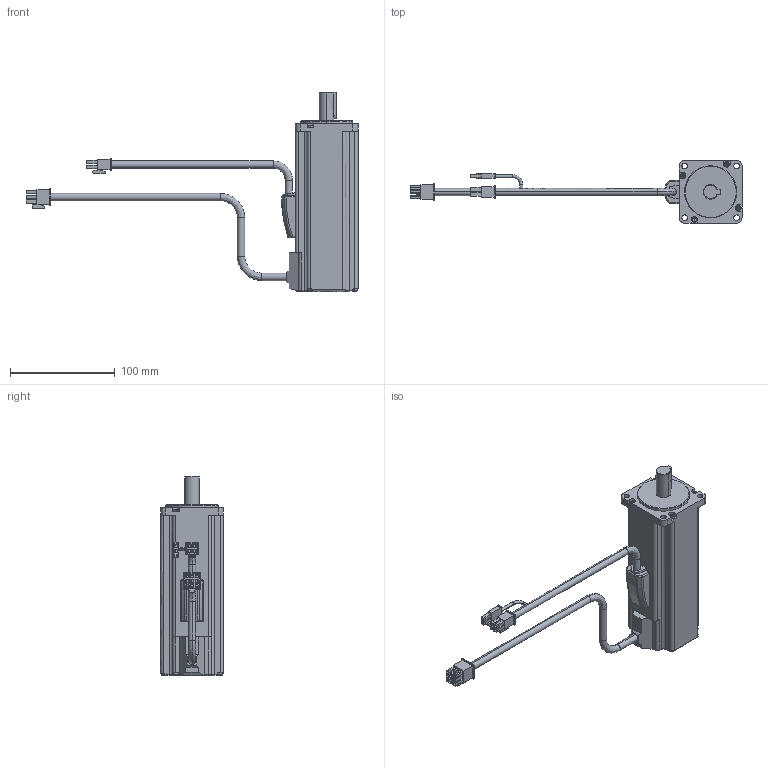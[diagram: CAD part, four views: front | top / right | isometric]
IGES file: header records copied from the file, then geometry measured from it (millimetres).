
Start section:  PTC IGES file: 10001027_rsmz-04bq-bh_brake.igs
Global section: file name: 10001027_rsmz-04bq-bh_brake.igs; native system: Pro/ENGINEER by Parametric Technology Corporation; preprocessor: 2004440; author: Administrator; organization: Unknown; date: 070829.201549; units: millimetre
Bounding box: 317.7 x 60 x 190.5 mm (x, y, z)
Volume: 539182 mm3; surface area: 64293.3 mm2
Topology: 1 solids, 1 shells, 504 faces, 1271 edges, 825 vertices
Faces by surface type: bspline 364, revolution 140
